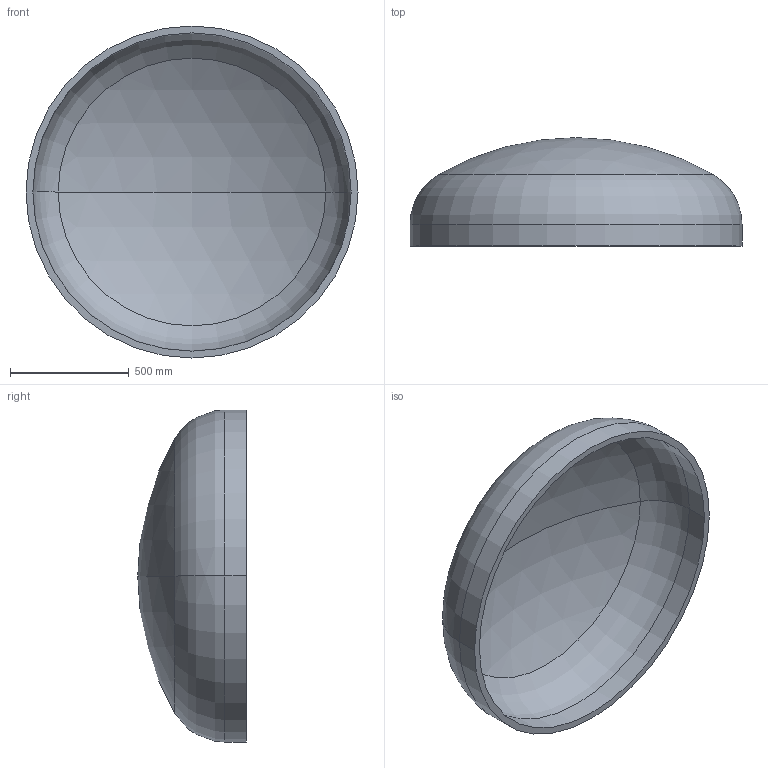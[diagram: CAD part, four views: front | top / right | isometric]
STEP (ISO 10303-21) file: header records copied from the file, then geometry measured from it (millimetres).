
FILE_DESCRIPTION (( 'STEP AP203' ), '1' );
FILE_NAME ('DIN 28013 Korbbogenform_-_Boden DIN 28013 - 1400 x 90 - I - s=29.step', '2016-07-01T10:13:50', ( '' ), ( '' ), 'SwSTEP 2.0', 'SolidWorks 2013', '' );
FILE_SCHEMA (( 'CONFIG_CONTROL_DESIGN' ));
Length unit declared in the file: millimetre
Products named in the file (1): DIN 28013 Korbbogenform_-_Boden DIN 28013 - 1400 x 90 - I - s=29
Bounding box: 1400 x 457.28 x 1400 mm (x, y, z)
Volume: 71374405.9 mm3; surface area: 5049039.2 mm2
Topology: 1 solids, 1 shells, 13 faces, 24 edges, 14 vertices
Faces by surface type: torus 4, cylinder 4, sphere 4, plane 1
Entity records: 407 total; most frequent: DIRECTION 72, CARTESIAN_POINT 52, ORIENTED_EDGE 48, AXIS2_PLACEMENT_3D 34, EDGE_CURVE 24, CIRCLE 20, EDGE_LOOP 14, VERTEX_POINT 14
